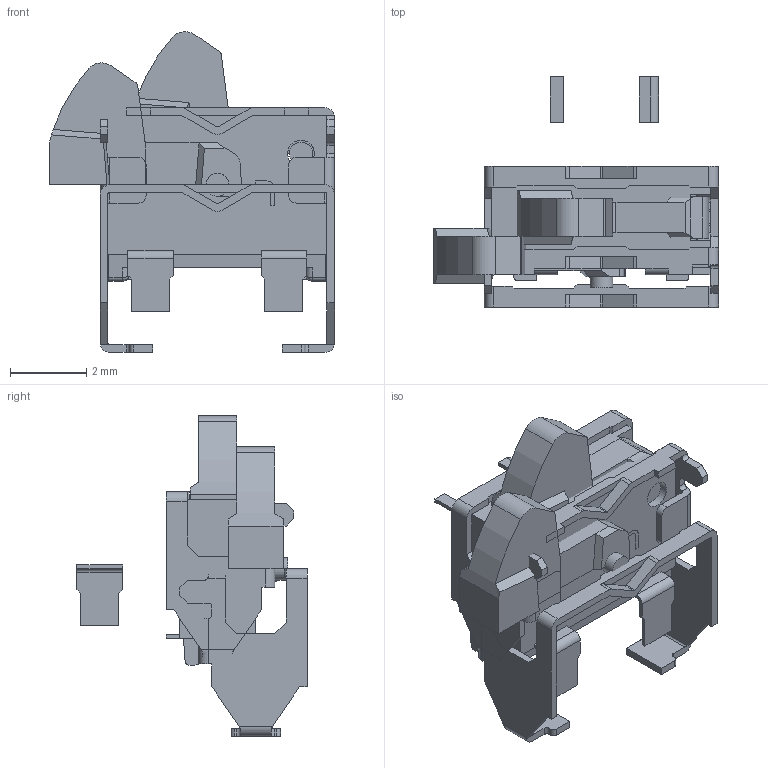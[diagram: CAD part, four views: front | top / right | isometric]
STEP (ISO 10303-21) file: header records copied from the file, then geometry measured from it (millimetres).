
FILE_DESCRIPTION( ( 'Unknown' ), '1' );
FILE_NAME( '//Ntcw022/edgesv/fsw/ユーザ提出用データ/ﾃﾞｨﾃｸﾀｰｽｲｯﾁ/ESE22/ese22mh52-std-sk.stp', 'Unknown', ( 'Unknown' ), ( 'Unknown' ), 'PSStep 10.0', 'Unknown', ' ' );
FILE_SCHEMA( ( 'AUTOMOTIVE_DESIGN { 1 0 10303 214 1 1 1 1 }' ) );
Length unit declared in the file: millimetre
Products named in the file (8): Assem1; e22cs4bb-mh-r-pc-r00; sw-3d-131-e22ts16-mh-sk-r00; sw-3d-131-e22tf10a-mh-sk-r00.par; sw-3d-131-e22lv12a-sk-r14
Bounding box: 7.49 x 6.05 x 8.42 mm (x, y, z)
Volume: 120.8 mm3; surface area: 416.8 mm2
Topology: 14 solids, 14 shells, 586 faces, 1644 edges, 1056 vertices
Faces by surface type: plane 412, cylinder 158, bspline 8, sphere 8
Full cylindrical faces by diameter (mm): 0.6 x2, 0.7 x2
Entity records: 11520 total; most frequent: CARTESIAN_POINT 1752, ORIENTED_EDGE 1618, DIRECTION 1565, EDGE_CURVE 809, LINE 635, VECTOR 635, VERTEX_POINT 526, AXIS2_PLACEMENT_3D 465
